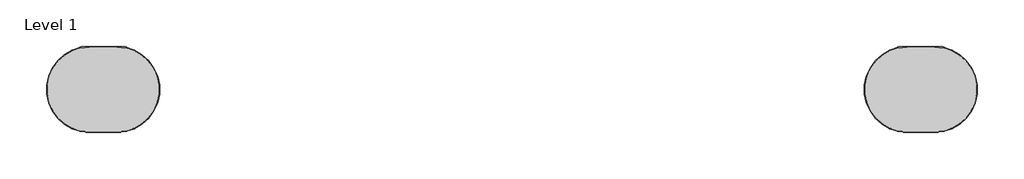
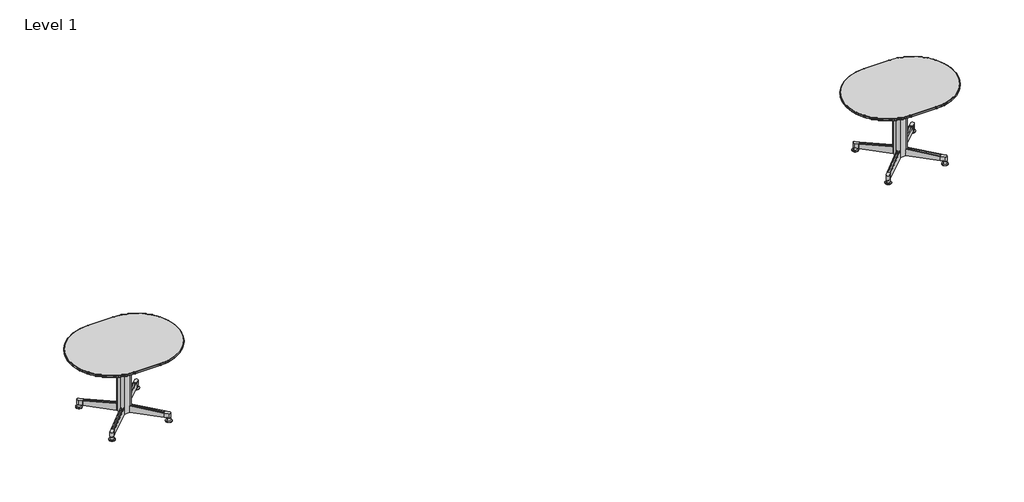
# One storey, incomplete: 2 furniture elements.
"""IFC4 building model written with IfcOpenShell, lengths in millimetres."""

from ifc_helpers import new_model, si_unit, origin, place, context, project, spatial, transform, mapped, element, save
from components import steelcase_scapeseries_table_desk_height_laminate_top_100a6fdf, steelcase_scapeseries_table_desk_height_veneer_top_569ed9d6

model = new_model("IFC4")

# Units and contexts
model_context = context("Model", 3, world=origin())
ifc_project = project(units=[si_unit("LENGTHUNIT", "METRE", prefix="MILLI")], contexts=[model_context])

# Site, building, storey
site = spatial("IfcSite", under=ifc_project)
building = spatial("IfcBuilding", under=site)
storey = spatial("IfcBuildingStorey", under=building, Name="Level 1", Elevation=0.0)

# Furniture
placement = place(None, origin())
steelcase_scapeseries_table_desk_height_laminate_top_shape = steelcase_scapeseries_table_desk_height_laminate_top_100a6fdf(model_context)
element("IfcFurniture", 1, ObjectType="Steelcase - ScapeSeries - Table - Desk Height : Laminate Top", at=placement, inside=storey, context=model_context, shape_type="MappedRepresentation", body=[
    mapped(steelcase_scapeseries_table_desk_height_laminate_top_shape, transform((773633.1566245, 7775.9141353, 0.0), x_axis=(1.0, 0.0, 0.0), y_axis=(0.0, 1.0, 0.0), z_axis=(0.0, 0.0, 1.0))),
])
steelcase_scapeseries_table_desk_height_veneer_top_shape = steelcase_scapeseries_table_desk_height_veneer_top_569ed9d6(model_context)
element("IfcFurniture", 2, ObjectType="Steelcase - ScapeSeries - Table - Desk Height : Veneer Top", at=placement, inside=storey, context=model_context, shape_type="MappedRepresentation", body=[
    mapped(steelcase_scapeseries_table_desk_height_veneer_top_shape, transform((781329.3566245, 7775.9141353, 0.0), x_axis=(1.0, 0.0, 0.0), y_axis=(0.0, 1.0, 0.0), z_axis=(0.0, 0.0, 1.0))),
])

save(model, "model.ifc")
